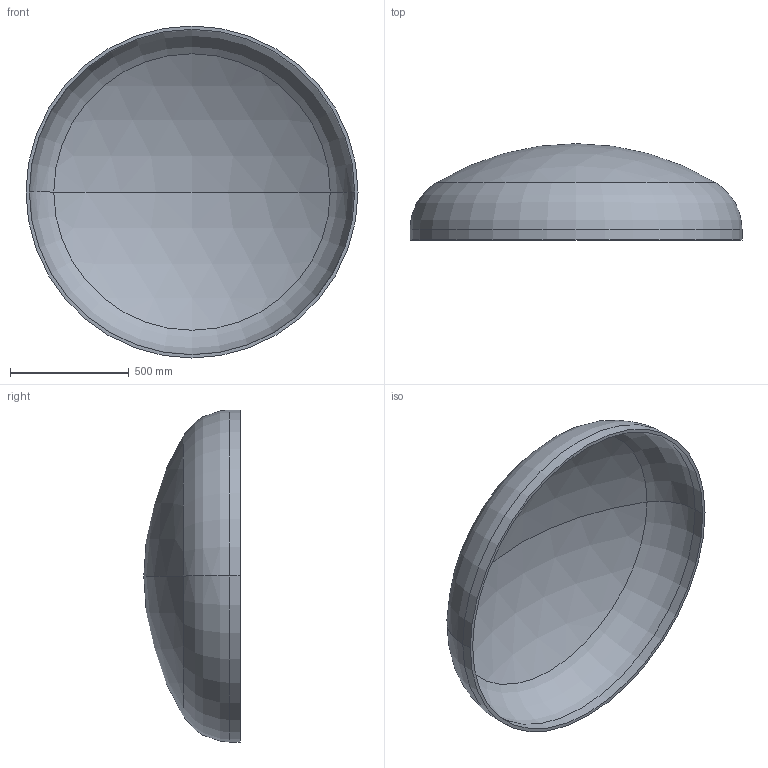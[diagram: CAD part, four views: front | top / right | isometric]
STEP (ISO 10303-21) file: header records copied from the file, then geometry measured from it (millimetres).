
FILE_DESCRIPTION (( 'STEP AP203' ), '1' );
FILE_NAME ('DIN 28013 Korbbogenform_-_Boden DIN 28013 - 1400 x 45 - I - s=14.step', '2016-07-01T10:08:36', ( '' ), ( '' ), 'SwSTEP 2.0', 'SolidWorks 2013', '' );
FILE_SCHEMA (( 'CONFIG_CONTROL_DESIGN' ));
Length unit declared in the file: millimetre
Products named in the file (1): DIN 28013 Korbbogenform_-_Boden DIN 28013 - 1400 x 45 - I - s=14
Bounding box: 1400 x 406.22 x 1400 mm (x, y, z)
Volume: 32183245.5 mm3; surface area: 4658974.8 mm2
Topology: 1 solids, 1 shells, 13 faces, 24 edges, 14 vertices
Faces by surface type: torus 4, cylinder 4, sphere 4, plane 1
Entity records: 407 total; most frequent: DIRECTION 72, CARTESIAN_POINT 52, ORIENTED_EDGE 48, AXIS2_PLACEMENT_3D 34, EDGE_CURVE 24, CIRCLE 20, EDGE_LOOP 14, VERTEX_POINT 14
